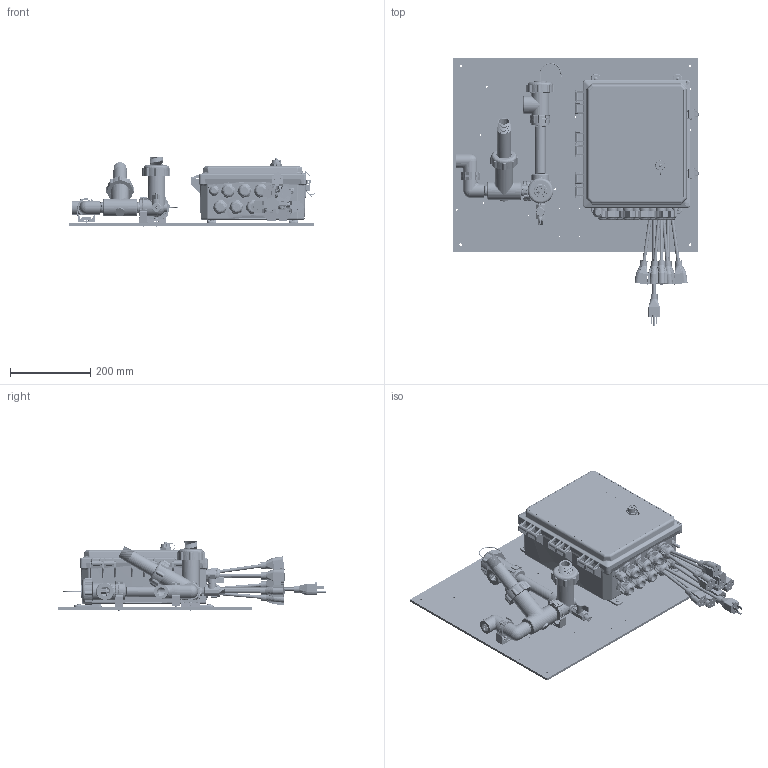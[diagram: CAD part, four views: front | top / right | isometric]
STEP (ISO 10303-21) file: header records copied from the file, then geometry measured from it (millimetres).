
FILE_DESCRIPTION (( 'STEP AP203' ), '1' );
FILE_NAME ('W900-CT-PAFNNN.STEP', '2018-03-09T18:57:15', ( '' ), ( '' ), 'SwSTEP 2.0', 'SolidWorks 2016', '' );
FILE_SCHEMA (( 'CONFIG_CONTROL_DESIGN' ));
Products named in the file (43): IMS0006; IMS0019_30075T211; IMS0010; IMS0013; IMC0010; IMS0005; IMC0005; ISA0006; 102903_102903; IMS0032; 102907; IMC0003; IMC0006; IMS0034; ISA0030; W900 Shell; 103860_Cord1; ISA0025; IMS0037_Cord1; IMS0023_30075T212; ISA0023; IMS0030; IMS0012; IMC0001; ISA0026; IMS0031; IMS0036_91772A829; IMS0027_98273A320; 103861; IMS0011_4882K14; 102906; IMR0003; IMC0004; ISA0029; IMC0002; IMC0009_102879-01; IMS0035_91500A537; W900-CT-PAFNNN; IMS0029; IMS0020
Assembly tree (75 placements, depth 5):
  W900-CT-PAFNNN
    ISA0030
      IMS0020  x2
      IMS0011_4882K14  x3
      IMC0004
      IMC0009_102879-01
      ISA0023
        IMS0013
        IMS0012
      IMS0032
      IMC0002
      ISA0026
        IMC0003
        IMS0010
        IMS0006
        ISA0025
          IMC0006
          IMS0029  x2
      IMS0006  x2
      IMS0005
      IMC0001  x3
      ISA0029
        IMS0030
        IMS0031
        IMC0005
      IMC0010
    IMR0003
    IMS0023_30075T212  x2
    IMS0019_30075T211
    W900 Shell
      W900 Shell
      IMS0034  x4
      IMS0035_91500A537  x4
      IMS0036_91772A829  x4
      ISA0006
        102903_102903
        102906
        103860_Cord1  x3
        103861
      ISA0006
        102903_102903
        102906
        103860_Cord1  x2
        103861
      ISA0006
        102907
        102903_102903
        102906
        103860_Cord1  x3
        103861
      IMS0037_Cord1
    IMS0027_98273A320  x3
Bounding box: 612.29 x 665.28 x 174.42 mm (x, y, z)
Volume: 4556743.7 mm3; surface area: 2063984.8 mm2
Topology: 112 solids, 115 shells, 16756 faces, 43798 edges, 27389 vertices
Faces by surface type: plane 6811, cylinder 4986, bspline 3292, cone 1078, torus 489, sphere 100
Entity records: 738273 total; most frequent: CARTESIAN_POINT 414853, ORIENTED_EDGE 75980, DIRECTION 53185, EDGE_CURVE 37994, VERTEX_POINT 23881, AXIS2_PLACEMENT_3D 18389, LINE 16407, VECTOR 16407
